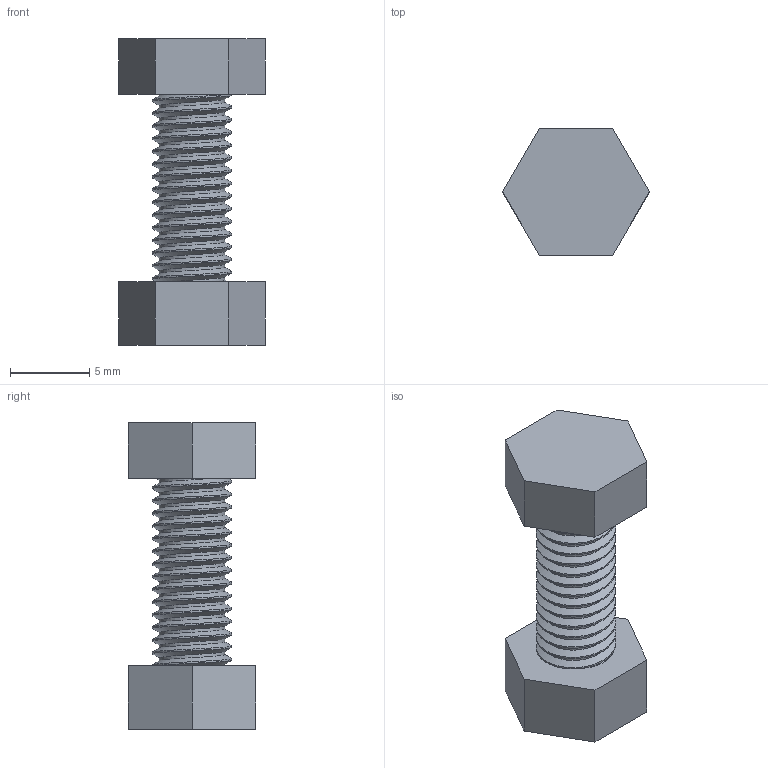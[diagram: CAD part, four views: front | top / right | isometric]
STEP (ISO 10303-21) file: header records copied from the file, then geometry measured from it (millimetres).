
FILE_DESCRIPTION(('Open CASCADE Model'),'2;1');
FILE_NAME('Open CASCADE Shape Model','2026-11-25T12:44:10',('Author'),( 'Open CASCADE'),'Open CASCADE STEP processor 8.0','Open CASCADE 8.0' ,'Unknown');
FILE_SCHEMA(('AP242_MANAGED_MODEL_BASED_3D_ENGINEERING_MIM_LF {1 0 10303 442 1 1 4 }' ));
Length unit declared in the file: millimetre
Products named in the file (2): M5 hex screw · 12 mm; M5 hex nut
Bounding box: 9.24 x 8 x 19.3 mm (x, y, z)
Volume: 544.3 mm3; surface area: 768 mm2
Topology: 2 solids, 2 shells, 45 faces, 120 edges, 80 vertices
Faces by surface type: cylinder 22, plane 17, bspline 6
Full cylindrical faces by diameter (mm): 4.134 x5, 5 x13
Entity records: 19479 total; most frequent: CARTESIAN_POINT 17347, DIRECTION 275, ORIENTED_EDGE 240, PCURVE 240, DEFINITIONAL_REPRESENTATION 240, LINE 178, VECTOR 178, B_SPLINE_CURVE_WITH_KNOTS 170
